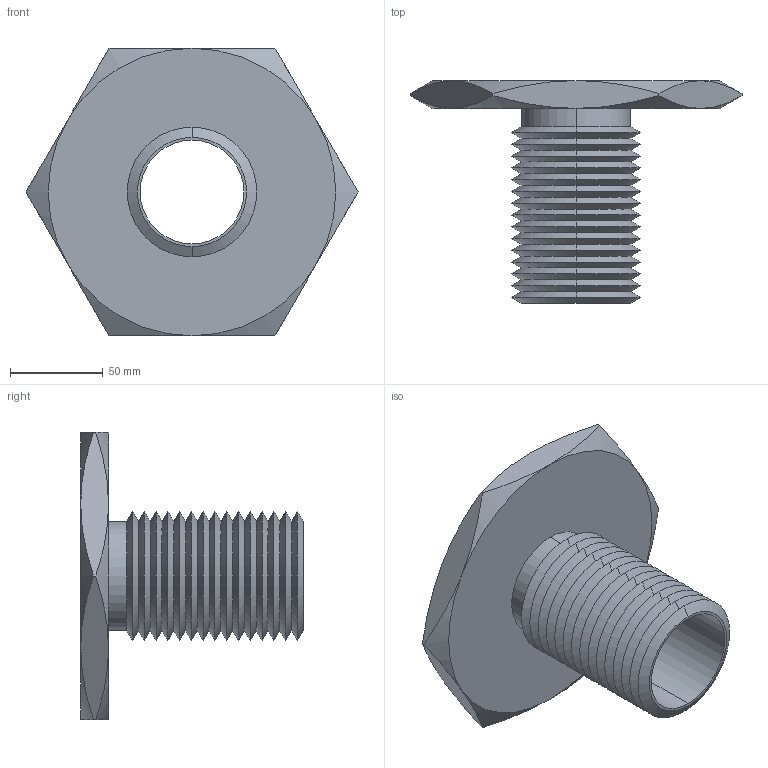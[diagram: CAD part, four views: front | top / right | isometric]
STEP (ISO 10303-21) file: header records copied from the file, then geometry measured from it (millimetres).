
FILE_DESCRIPTION (( 'STEP AP203' ), '1' );
FILE_NAME ('63302.W5275_M56x4.step', '2013-12-08T11:55:09', ( 'User' ), ( '' ), 'SwSTEP 2.0', 'SolidWorks 2009', '' );
FILE_SCHEMA (( 'CONFIG_CONTROL_DESIGN' ));
Length unit declared in the file: millimetre
Products named in the file (1): 63302.W5275_M56x4
Bounding box: 178.98 x 120 x 155 mm (x, y, z)
Volume: 344037.1 mm3; surface area: 103825.2 mm2
Topology: 1 solids, 1 shells, 87 faces, 178 edges, 94 vertices
Faces by surface type: cone 74, plane 9, cylinder 4
Entity records: 2479 total; most frequent: CARTESIAN_POINT 584, DIRECTION 412, ORIENTED_EDGE 356, EDGE_CURVE 178, AXIS2_PLACEMENT_3D 170, VERTEX_POINT 94, EDGE_LOOP 90, ADVANCED_FACE 87
